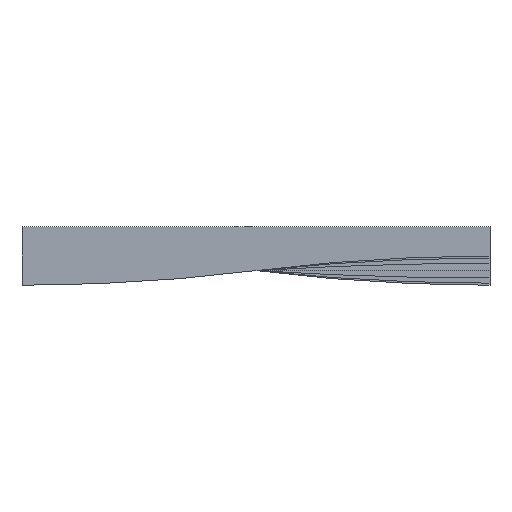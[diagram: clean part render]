
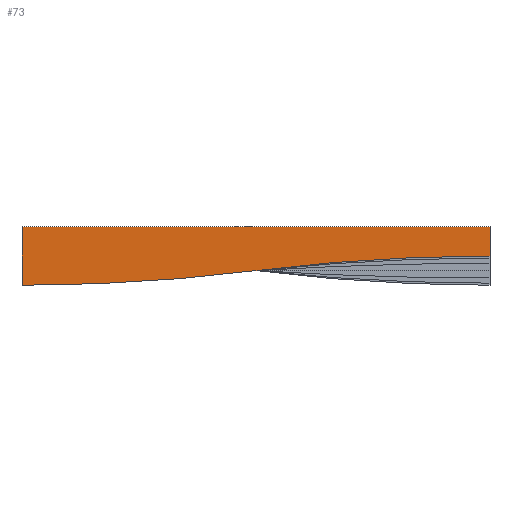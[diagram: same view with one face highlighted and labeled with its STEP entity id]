
A CAD part, front view. The second image highlights one B-rep face of the part: STEP entity #73.
In plain terms, the highlighted planar face has unit normal (0, -1, 0).
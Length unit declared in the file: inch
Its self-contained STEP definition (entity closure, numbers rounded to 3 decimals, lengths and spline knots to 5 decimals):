
#73=ADVANCED_FACE('',(#121),#705,.T.);
#121=FACE_OUTER_BOUND('',#169,.T.);
#169=EDGE_LOOP('',(#369,#370,#371,#372,#373));
#369=ORIENTED_EDGE('',*,*,#463,.T.);
#370=ORIENTED_EDGE('',*,*,#467,.T.);
#371=ORIENTED_EDGE('',*,*,#470,.T.);
#372=ORIENTED_EDGE('',*,*,#473,.T.);
#373=ORIENTED_EDGE('',*,*,#475,.T.);
#463=EDGE_CURVE('',#663,#662,#575,.T.);
#467=EDGE_CURVE('',#662,#665,#532,.T.);
#470=EDGE_CURVE('',#665,#667,#535,.T.);
#473=EDGE_CURVE('',#667,#669,#538,.T.);
#475=EDGE_CURVE('',#669,#663,#577,.T.);
#532=B_SPLINE_CURVE_WITH_KNOTS('',1,(#1307,#1308),.UNSPECIFIED.,.F.,.F.,
(2,2),(96.24981,102.24981),.UNSPECIFIED.);
#535=B_SPLINE_CURVE_WITH_KNOTS('',1,(#1313,#1314),.UNSPECIFIED.,.F.,.F.,
(2,2),(102.24981,198.24981),.UNSPECIFIED.);
#538=B_SPLINE_CURVE_WITH_KNOTS('',1,(#1319,#1320),.UNSPECIFIED.,.F.,.F.,
(2,2),(198.24981,210.24981),.UNSPECIFIED.);
#575=TRIMMED_CURVE($,#599,(#1299),(#1300),.T.,.CARTESIAN.);
#577=TRIMMED_CURVE($,#601,(#1325),(#1326),.T.,.CARTESIAN.);
#599=CIRCLE('',#878,385.5);
#601=CIRCLE('',#880,385.5);
#662=VERTEX_POINT('',#1285);
#663=VERTEX_POINT('',#1286);
#665=VERTEX_POINT('',#1288);
#667=VERTEX_POINT('',#1290);
#669=VERTEX_POINT('',#1292);
#705=PLANE('',#876);
#876=AXIS2_PLACEMENT_3D('',#1282,#971,$);
#878=AXIS2_PLACEMENT_3D($,#1298,#974,#975);
#880=AXIS2_PLACEMENT_3D($,#1324,#978,#979);
#971=DIRECTION('',(0.,-1.,0.));
#974=DIRECTION('',(0.,1.,0.));
#975=DIRECTION('',(-0.125,0.,0.992));
#978=DIRECTION('',(0.,-1.,0.));
#979=DIRECTION('',(0.,0.,-1.));
#1282=CARTESIAN_POINT('',(-1111.34355,-0.9583,385.84288));
#1285=CARTESIAN_POINT('',(-1003.34355,-0.9583,393.34288));
#1286=CARTESIAN_POINT('',(-1051.34355,-0.9583,390.34288));
#1288=CARTESIAN_POINT('',(-1003.34355,-0.9583,399.34288));
#1290=CARTESIAN_POINT('',(-1099.34355,-0.9583,399.34288));
#1292=CARTESIAN_POINT('',(-1099.34355,-0.9583,387.34288));
#1298=CARTESIAN_POINT('',(-1003.34355,-0.9583,7.84288));
#1299=CARTESIAN_POINT('',(-1051.34355,-0.9583,390.34288));
#1300=CARTESIAN_POINT('',(-1003.34355,-0.9583,393.34288));
#1307=CARTESIAN_POINT('',(-1003.34355,-0.9583,393.34288));
#1308=CARTESIAN_POINT('',(-1003.34355,-0.9583,399.34288));
#1313=CARTESIAN_POINT('',(-1003.34355,-0.9583,399.34288));
#1314=CARTESIAN_POINT('',(-1099.34355,-0.9583,399.34288));
#1319=CARTESIAN_POINT('',(-1099.34355,-0.9583,399.34288));
#1320=CARTESIAN_POINT('',(-1099.34355,-0.9583,387.34288));
#1324=CARTESIAN_POINT('',(-1099.34355,-0.9583,772.84288));
#1325=CARTESIAN_POINT('',(-1099.34355,-0.9583,387.34288));
#1326=CARTESIAN_POINT('',(-1051.34355,-0.9583,390.34288));
